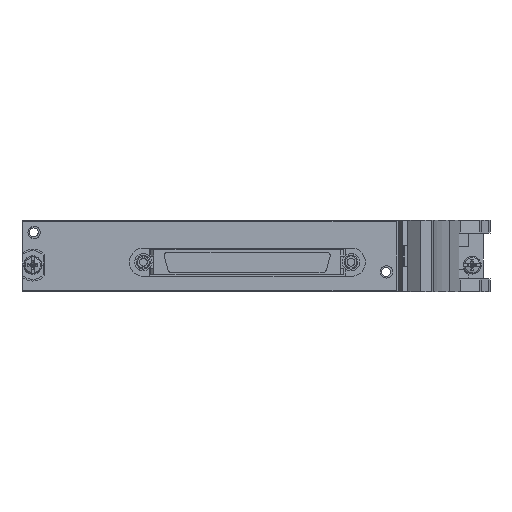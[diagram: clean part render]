
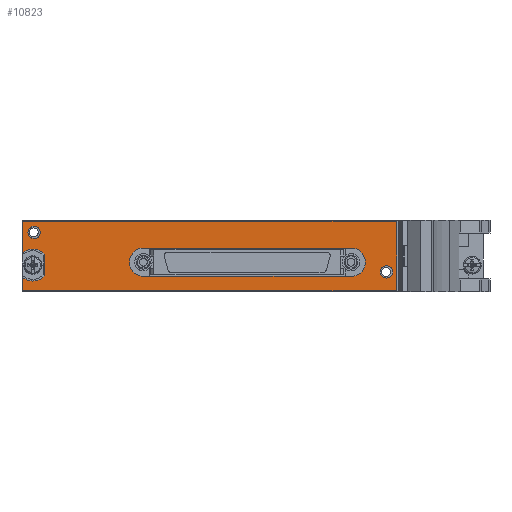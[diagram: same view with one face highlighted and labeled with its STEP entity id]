
A CAD part, left-side view. The second image highlights one B-rep face of the part: STEP entity #10823.
In plain terms, the highlighted planar face has unit normal (-1, 0, 0).
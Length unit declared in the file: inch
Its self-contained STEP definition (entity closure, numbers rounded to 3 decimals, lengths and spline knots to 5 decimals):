
#6694=CARTESIAN_POINT('',(-4.29052,0.53844,0.6635));
#6695=DIRECTION('',(-1.,0.,0.));
#6696=DIRECTION('',(0.,0.,1.));
#6697=AXIS2_PLACEMENT_3D('',#6694,#6695,#6696);
#6699=DIRECTION('',(0.,1.,0.));
#6700=VECTOR('',#6699,4.07);
#6701=CARTESIAN_POINT('',(-4.29052,-3.53156,0.6835));
#6702=LINE('',#6701,#6700);
#6703=CARTESIAN_POINT('',(-4.29052,-3.53156,0.6635));
#6704=DIRECTION('',(-1.,0.,0.));
#6705=DIRECTION('',(0.,-1.,0.));
#6706=AXIS2_PLACEMENT_3D('',#6703,#6704,#6705);
#6708=DIRECTION('',(0.,0.,1.));
#6709=VECTOR('',#6708,0.728);
#6710=CARTESIAN_POINT('',(-4.29052,-3.55156,-0.0645));
#6711=LINE('',#6710,#6709);
#6712=CARTESIAN_POINT('',(-4.29052,-3.53156,-0.0645));
#6713=DIRECTION('',(-1.,0.,0.));
#6714=DIRECTION('',(0.,0.,-1.));
#6715=AXIS2_PLACEMENT_3D('',#6712,#6713,#6714);
#6717=DIRECTION('',(0.,-1.,0.));
#6718=VECTOR('',#6717,4.07);
#6719=CARTESIAN_POINT('',(-4.29052,0.53844,-0.0845));
#6720=LINE('',#6719,#6718);
#6721=CARTESIAN_POINT('',(-4.29052,0.53844,-0.0645));
#6722=DIRECTION('',(-1.,0.,0.));
#6723=DIRECTION('',(0.,1.,0.));
#6724=AXIS2_PLACEMENT_3D('',#6721,#6722,#6723);
#6726=DIRECTION('',(0.,0.,-1.));
#6727=VECTOR('',#6726,0.12953);
#6728=CARTESIAN_POINT('',(-4.29052,0.55844,0.06503));
#6729=LINE('',#6728,#6727);
#6730=CARTESIAN_POINT('',(-4.29052,0.44644,0.1995));
#6731=DIRECTION('',(1.,0.,0.));
#6732=DIRECTION('',(0.,-0.737,-0.676));
#6733=AXIS2_PLACEMENT_3D('',#6730,#6731,#6732);
#6735=DIRECTION('',(0.,0.,-1.));
#6736=VECTOR('',#6735,0.23651);
#6737=CARTESIAN_POINT('',(-4.29052,0.31744,0.31775));
#6738=LINE('',#6737,#6736);
#6739=CARTESIAN_POINT('',(-4.29052,0.44644,0.1995));
#6740=DIRECTION('',(1.,0.,0.));
#6741=DIRECTION('',(0.,0.64,0.768));
#6742=AXIS2_PLACEMENT_3D('',#6739,#6740,#6741);
#6744=DIRECTION('',(0.,0.,-1.));
#6745=VECTOR('',#6744,0.32953);
#6746=CARTESIAN_POINT('',(-4.29052,0.55844,0.6635));
#6747=LINE('',#6746,#6745);
#6748=CARTESIAN_POINT('',(-4.29052,0.43217,0.5585));
#6749=DIRECTION('',(-1.,0.,0.));
#6750=DIRECTION('',(0.,0.,1.));
#6751=AXIS2_PLACEMENT_3D('',#6748,#6749,#6750);
#6753=CARTESIAN_POINT('',(-4.29052,0.43217,0.5585));
#6754=DIRECTION('',(-1.,0.,0.));
#6755=DIRECTION('',(0.,0.,-1.));
#6756=AXIS2_PLACEMENT_3D('',#6753,#6754,#6755);
#6758=CARTESIAN_POINT('',(-4.29052,-3.43683,0.1245));
#6759=DIRECTION('',(-1.,0.,0.));
#6760=DIRECTION('',(0.,0.,1.));
#6761=AXIS2_PLACEMENT_3D('',#6758,#6759,#6760);
#6763=CARTESIAN_POINT('',(-4.29052,-3.43683,0.1245));
#6764=DIRECTION('',(-1.,0.,0.));
#6765=DIRECTION('',(0.,0.,-1.));
#6766=AXIS2_PLACEMENT_3D('',#6763,#6764,#6765);
#6768=CARTESIAN_POINT('',(-4.29052,-3.04991,0.2315));
#6769=DIRECTION('',(-1.,0.,0.));
#6770=DIRECTION('',(0.,0.,-1.));
#6771=AXIS2_PLACEMENT_3D('',#6768,#6769,#6770);
#6773=DIRECTION('',(0.,1.,0.));
#6774=VECTOR('',#6773,2.28);
#6775=CARTESIAN_POINT('',(-4.29052,-3.04991,0.3865));
#6776=LINE('',#6775,#6774);
#6777=CARTESIAN_POINT('',(-4.29052,-0.76991,0.2315));
#6778=DIRECTION('',(-1.,0.,0.));
#6779=DIRECTION('',(0.,0.,1.));
#6780=AXIS2_PLACEMENT_3D('',#6777,#6778,#6779);
#6782=DIRECTION('',(0.,-1.,0.));
#6783=VECTOR('',#6782,2.28);
#6784=CARTESIAN_POINT('',(-4.29052,-0.76991,0.0765));
#6785=LINE('',#6784,#6783);
#10438=CARTESIAN_POINT('',(-4.29052,0.53844,0.6835));
#10439=CARTESIAN_POINT('',(-4.29052,0.55844,0.6635));
#10440=VERTEX_POINT('',#10438);
#10441=VERTEX_POINT('',#10439);
#10442=CARTESIAN_POINT('',(-4.29052,0.55844,0.33397));
#10443=VERTEX_POINT('',#10442);
#10444=CARTESIAN_POINT('',(-4.29052,0.31744,0.31775));
#10445=VERTEX_POINT('',#10444);
#10446=CARTESIAN_POINT('',(-4.29052,0.31744,0.08125));
#10447=VERTEX_POINT('',#10446);
#10448=CARTESIAN_POINT('',(-4.29052,0.55844,0.06503));
#10449=VERTEX_POINT('',#10448);
#10450=CARTESIAN_POINT('',(-4.29052,0.55844,-0.0645));
#10451=VERTEX_POINT('',#10450);
#10452=CARTESIAN_POINT('',(-4.29052,0.53844,-0.0845));
#10453=VERTEX_POINT('',#10452);
#10454=CARTESIAN_POINT('',(-4.29052,-3.53156,-0.0845));
#10455=VERTEX_POINT('',#10454);
#10456=CARTESIAN_POINT('',(-4.29052,-3.55156,-0.0645));
#10457=VERTEX_POINT('',#10456);
#10458=CARTESIAN_POINT('',(-4.29052,-3.55156,0.6635));
#10459=VERTEX_POINT('',#10458);
#10460=CARTESIAN_POINT('',(-4.29052,-3.53156,0.6835));
#10461=VERTEX_POINT('',#10460);
#10462=CARTESIAN_POINT('',(-4.29052,0.43217,0.626));
#10463=CARTESIAN_POINT('',(-4.29052,0.43217,0.491));
#10464=VERTEX_POINT('',#10462);
#10465=VERTEX_POINT('',#10463);
#10466=CARTESIAN_POINT('',(-4.29052,-3.43683,0.192));
#10467=CARTESIAN_POINT('',(-4.29052,-3.43683,0.057));
#10468=VERTEX_POINT('',#10466);
#10469=VERTEX_POINT('',#10467);
#10470=CARTESIAN_POINT('',(-4.29052,-3.04991,0.0765));
#10471=CARTESIAN_POINT('',(-4.29052,-3.04991,0.3865));
#10472=VERTEX_POINT('',#10470);
#10473=VERTEX_POINT('',#10471);
#10474=CARTESIAN_POINT('',(-4.29052,-0.76991,0.3865));
#10475=VERTEX_POINT('',#10474);
#10476=CARTESIAN_POINT('',(-4.29052,-0.76991,0.0765));
#10477=VERTEX_POINT('',#10476);
#10772=CARTESIAN_POINT('',(-4.29052,0.44644,0.1995));
#10773=DIRECTION('',(-1.,0.,0.));
#10774=DIRECTION('',(0.,0.,1.));
#10775=AXIS2_PLACEMENT_3D('',#10772,#10773,#10774);
#10776=PLANE('',#10775);
#10778=ORIENTED_EDGE('',*,*,#10777,.F.);
#10780=ORIENTED_EDGE('',*,*,#10779,.F.);
#10782=ORIENTED_EDGE('',*,*,#10781,.F.);
#10784=ORIENTED_EDGE('',*,*,#10783,.F.);
#10786=ORIENTED_EDGE('',*,*,#10785,.F.);
#10788=ORIENTED_EDGE('',*,*,#10787,.F.);
#10790=ORIENTED_EDGE('',*,*,#10789,.F.);
#10792=ORIENTED_EDGE('',*,*,#10791,.F.);
#10794=ORIENTED_EDGE('',*,*,#10793,.F.);
#10796=ORIENTED_EDGE('',*,*,#10795,.F.);
#10798=ORIENTED_EDGE('',*,*,#10797,.F.);
#10800=ORIENTED_EDGE('',*,*,#10799,.F.);
#10801=EDGE_LOOP('',(#10778,#10780,#10782,#10784,#10786,#10788,#10790,#10792,
#10794,#10796,#10798,#10800));
#10802=FACE_OUTER_BOUND('',#10801,.F.);
#10804=ORIENTED_EDGE('',*,*,#10803,.T.);
#10806=ORIENTED_EDGE('',*,*,#10805,.T.);
#10807=EDGE_LOOP('',(#10804,#10806));
#10808=FACE_BOUND('',#10807,.F.);
#10809=ORIENTED_EDGE('',*,*,#10735,.T.);
#10810=ORIENTED_EDGE('',*,*,#10766,.T.);
#10811=EDGE_LOOP('',(#10809,#10810));
#10812=FACE_BOUND('',#10811,.F.);
#10814=ORIENTED_EDGE('',*,*,#10813,.T.);
#10816=ORIENTED_EDGE('',*,*,#10815,.T.);
#10818=ORIENTED_EDGE('',*,*,#10817,.T.);
#10820=ORIENTED_EDGE('',*,*,#10819,.T.);
#10821=EDGE_LOOP('',(#10814,#10816,#10818,#10820));
#10822=FACE_BOUND('',#10821,.F.);
#10823=ADVANCED_FACE('',(#10802,#10808,#10812,#10822),#10776,.T.);
#6698=CIRCLE('',#6697,0.02);
#6707=CIRCLE('',#6706,0.02);
#6716=CIRCLE('',#6715,0.02);
#6725=CIRCLE('',#6724,0.02);
#6734=CIRCLE('',#6733,0.175);
#6743=CIRCLE('',#6742,0.175);
#6752=CIRCLE('',#6751,0.0675);
#6757=CIRCLE('',#6756,0.0675);
#6762=CIRCLE('',#6761,0.0675);
#6767=CIRCLE('',#6766,0.0675);
#6772=CIRCLE('',#6771,0.155);
#6781=CIRCLE('',#6780,0.155);
#10735=EDGE_CURVE('',#10468,#10469,#6762,.T.);
#10766=EDGE_CURVE('',#10469,#10468,#6767,.T.);
#10777=EDGE_CURVE('',#10440,#10441,#6698,.T.);
#10779=EDGE_CURVE('',#10461,#10440,#6702,.T.);
#10781=EDGE_CURVE('',#10459,#10461,#6707,.T.);
#10783=EDGE_CURVE('',#10457,#10459,#6711,.T.);
#10785=EDGE_CURVE('',#10455,#10457,#6716,.T.);
#10787=EDGE_CURVE('',#10453,#10455,#6720,.T.);
#10789=EDGE_CURVE('',#10451,#10453,#6725,.T.);
#10791=EDGE_CURVE('',#10449,#10451,#6729,.T.);
#10793=EDGE_CURVE('',#10447,#10449,#6734,.T.);
#10795=EDGE_CURVE('',#10445,#10447,#6738,.T.);
#10797=EDGE_CURVE('',#10443,#10445,#6743,.T.);
#10799=EDGE_CURVE('',#10441,#10443,#6747,.T.);
#10803=EDGE_CURVE('',#10464,#10465,#6752,.T.);
#10805=EDGE_CURVE('',#10465,#10464,#6757,.T.);
#10813=EDGE_CURVE('',#10472,#10473,#6772,.T.);
#10815=EDGE_CURVE('',#10473,#10475,#6776,.T.);
#10817=EDGE_CURVE('',#10475,#10477,#6781,.T.);
#10819=EDGE_CURVE('',#10477,#10472,#6785,.T.);
